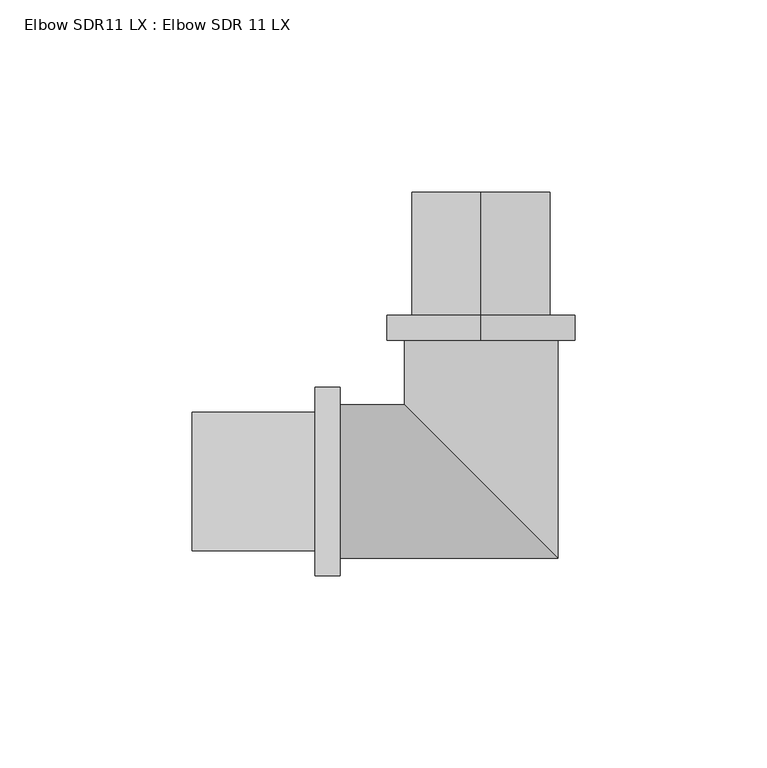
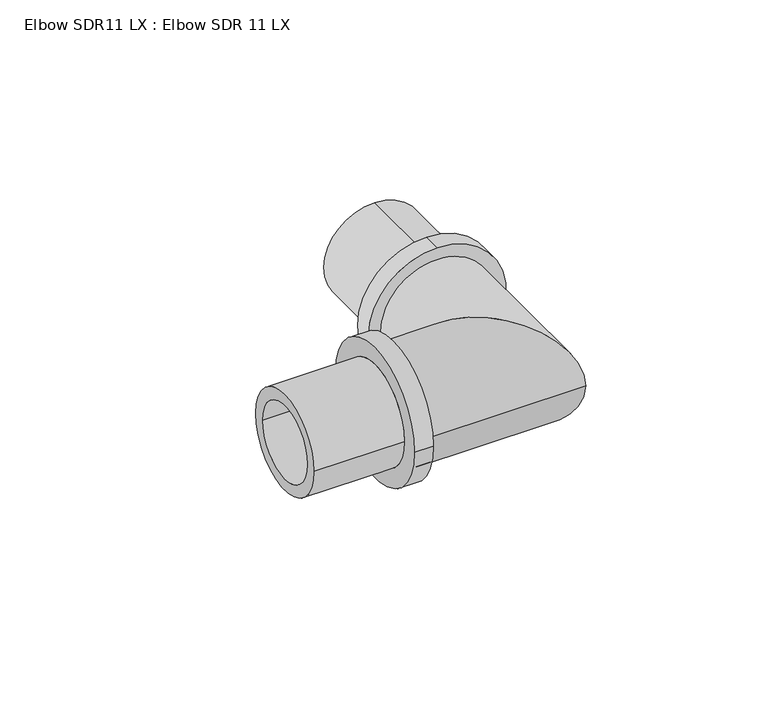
"""IFC4 building model written with IfcOpenShell, lengths in millimetres: pipe fitting geometry, Elbow SDR11 LX : Elbow SDR 11 LX."""

from ifc_helpers import new_model, si_unit, frame, origin, place, context, project, spatial, polyline, circle_curve, ellipse_curve, source, transform, mapped, element, save
from ifc_brep_helpers import plane_surface, cylinder_surface, revolved_surface, advanced_brep


def elbow_sdr11_lx_elbow_sdr_11_lx_b8bc8752(model_context):
    return source(origin(), model_context, "Body", "AdvancedBrep", [
        advanced_brep(
        [(-36.7, -20.0, 0.0), (-36.7, 20.0, 0.0), (-36.7, -13.75, 0.0), (-36.7, 13.75, 0.0), (20.0, -20.0, 0.0), (-20.0, 20.0, 0.0), (13.75, -13.75, 0.0), (-13.75, 13.75, 0.0), (20.0, 36.7, 0.0), (-20.0, 36.7, 0.0), (13.75, 36.7, 0.0), (-13.75, 36.7, 0.0)],
        [
            (0, 1, circle_curve(frame((-36.7, 0.0, 0.0), z_axis=(-1.0, 0.0, 0.0), x_axis=(0.0, 1.0, 0.0)), 20.0)),
            (1, 0, circle_curve(frame((-36.7, 0.0, 0.0), z_axis=(-1.0, 0.0, 0.0), x_axis=(0.0, 1.0, 0.0)), 20.0)),
            (2, 3, circle_curve(frame((-36.7, 0.0, 0.0), z_axis=(1.0, 0.0, 0.0), x_axis=(0.0, 1.0, 0.0)), 13.75)),
            (3, 2, circle_curve(frame((-36.7, 0.0, 0.0), z_axis=(1.0, 0.0, 0.0), x_axis=(0.0, 1.0, 0.0)), 13.75)),
            (0, 4),
            (4, 5, ellipse_curve(frame((0.0, 0.0, 0.0), z_axis=(-0.7071067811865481, -0.7071067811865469, 0.0), x_axis=(-0.7071067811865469, 0.7071067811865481, 0.0)), 28.2842712, 20.0)),
            (5, 1),
            (5, 4, ellipse_curve(frame((0.0, 0.0, 0.0), z_axis=(-0.7071067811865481, -0.7071067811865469, 0.0), x_axis=(-0.7071067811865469, 0.7071067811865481, 0.0)), 28.2842712, 20.0)),
            (2, 6),
            (6, 7, ellipse_curve(frame((0.0, 0.0, 0.0), z_axis=(0.7071067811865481, 0.7071067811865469, 0.0), x_axis=(0.7071067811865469, -0.7071067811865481, 0.0)), 19.4454365, 13.75)),
            (7, 3),
            (7, 6, ellipse_curve(frame((0.0, 0.0, 0.0), z_axis=(0.7071067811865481, 0.7071067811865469, 0.0), x_axis=(0.7071067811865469, -0.7071067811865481, 0.0)), 19.4454365, 13.75)),
            (8, 9, circle_curve(frame((0.0, 36.7, 0.0), z_axis=(0.0, 1.0, 0.0), x_axis=(-1.0, 0.0, 0.0)), 20.0)),
            (9, 8, circle_curve(frame((0.0, 36.7, 0.0), z_axis=(0.0, 1.0, 0.0), x_axis=(-1.0, 0.0, 0.0)), 20.0)),
            (10, 11, circle_curve(frame((0.0, 36.7, 0.0), z_axis=(0.0, -1.0, 0.0), x_axis=(-1.0, 0.0, 0.0)), 13.75)),
            (11, 10, circle_curve(frame((0.0, 36.7, 0.0), z_axis=(0.0, -1.0, 0.0), x_axis=(-1.0, 0.0, 0.0)), 13.75)),
            (4, 8),
            (9, 5),
            (6, 10),
            (11, 7),
        ],
        [
            plane_surface(frame((-36.7, 0.0, 0.0), z_axis=(-1.0, 0.0, 0.0), x_axis=(0.0, 0.0, 1.0))),
            cylinder_surface(frame((-36.7, 0.0, 0.0), z_axis=(-1.0, 0.0, 0.0), x_axis=(0.0, 1.0, 0.0)), 20.0),
            revolved_surface(polyline([(13.750000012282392, 13.75, 0.0), (-36.7, 13.75, 0.0)]), (-36.7, 0.0, 0.0), (1.0, 0.0, 0.0)),
            plane_surface(frame((0.0, 36.7, 0.0), z_axis=(0.0, 1.0, 0.0), x_axis=(0.0, 0.0, 1.0))),
            cylinder_surface(frame((0.0, 0.0, 0.0), z_axis=(0.0, -1.0, 0.0), x_axis=(-1.0, 0.0, 0.0)), 20.0),
            revolved_surface(polyline([(-13.75, 36.7, 0.0), (-13.75, -13.750000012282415, 0.0)]), (0.0, 0.0, 0.0), (0.0, 1.0, 0.0)),
        ],
        [
            (0, [[1, 2], [3, 4]]),
            (1, [[-1, 5, 6, 7]]),
            (1, [[-2, -7, 8, -5]]),
            (2, [[-3, 9, 10, 11]]),
            (2, [[-4, -11, 12, -9]]),
            (3, [[13, 14], [15, 16]]),
            (4, [[-6, 17, -14, 18]]),
            (4, [[-8, -18, -13, -17]]),
            (5, [[-10, 19, -16, 20]]),
            (5, [[-12, -20, -15, -19]]),
        ],
    ),
        advanced_brep(
        [(0.0, 75.2, 13.75), (0.0, 75.2, -13.75), (0.0, 36.7, -13.75), (0.0, 36.7, 13.75), (0.0, 43.2, 18.0), (0.0, 43.2, -18.0), (0.0, 75.2, -18.0), (0.0, 75.2, 18.0), (0.0, 36.7, 24.5), (0.0, 36.7, -24.5), (0.0, 43.2, -24.5), (0.0, 43.2, 24.5)],
        [
            (0, 1, circle_curve(frame((0.0, 75.2, 0.0), z_axis=(0.0, 1.0, 0.0), x_axis=(0.0, 0.0, -1.0)), 13.75)),
            (1, 2),
            (2, 3, circle_curve(frame((0.0, 36.7, 0.0), z_axis=(0.0, -1.0, 0.0), x_axis=(0.0, 0.0, -1.0)), 13.75)),
            (3, 0),
            (4, 5, circle_curve(frame((0.0, 43.2, 0.0), z_axis=(0.0, 1.0, 0.0), x_axis=(0.0, 0.0, -1.0)), 18.0)),
            (5, 6),
            (6, 7, circle_curve(frame((0.0, 75.2, 0.0), z_axis=(0.0, -1.0, 0.0), x_axis=(0.0, 0.0, -1.0)), 18.0)),
            (7, 4),
            (8, 9, circle_curve(frame((0.0, 36.7, 0.0), z_axis=(0.0, 1.0, 0.0), x_axis=(0.0, 0.0, -1.0)), 24.5)),
            (9, 10),
            (10, 11, circle_curve(frame((0.0, 43.2, 0.0), z_axis=(0.0, -1.0, 0.0), x_axis=(0.0, 0.0, -1.0)), 24.5)),
            (11, 8),
            (1, 0, circle_curve(frame((0.0, 75.2, 0.0), z_axis=(0.0, 1.0, 0.0), x_axis=(0.0, 0.0, 1.0)), 13.75)),
            (3, 2, circle_curve(frame((0.0, 36.7, 0.0), z_axis=(0.0, -1.0, 0.0), x_axis=(0.0, 0.0, 1.0)), 13.75)),
            (6, 7, circle_curve(frame((0.0, 75.2, 0.0), z_axis=(0.0, 1.0, 0.0), x_axis=(0.0, 0.0, 1.0)), 18.0)),
            (5, 4, circle_curve(frame((0.0, 43.2, 0.0), z_axis=(0.0, 1.0, 0.0), x_axis=(0.0, 0.0, 1.0)), 18.0)),
            (10, 11, circle_curve(frame((0.0, 43.2, 0.0), z_axis=(0.0, 1.0, 0.0), x_axis=(0.0, 0.0, 1.0)), 24.5)),
            (9, 8, circle_curve(frame((0.0, 36.7, 0.0), z_axis=(0.0, 1.0, 0.0), x_axis=(0.0, 0.0, 1.0)), 24.5)),
        ],
        [
            revolved_surface(polyline([(0.0, 36.7, -13.75), (0.0, 75.2, -13.75)]), (0.0, 0.0, 0.0), (0.0, -1.0, 0.0)),
            cylinder_surface(frame((0.0, 0.0, 0.0), z_axis=(0.0, -1.0, 0.0), x_axis=(0.0, 0.0, -1.0)), 18.0),
            cylinder_surface(frame((0.0, 0.0, 0.0), z_axis=(0.0, -1.0, 0.0), x_axis=(0.0, 0.0, -1.0)), 24.5),
            revolved_surface(polyline([(0.0, 36.7, 13.75), (0.0, 75.2, 13.75)]), (0.0, 0.0, 0.0), (0.0, -1.0, 0.0)),
            plane_surface(frame((0.0, 75.2, 0.0), z_axis=(0.0, 1.0, 0.0), x_axis=(0.0, 0.0, 1.0))),
            cylinder_surface(frame((0.0, 0.0, 0.0), z_axis=(0.0, -1.0, 0.0), x_axis=(0.0, 0.0, 1.0)), 18.0),
            plane_surface(frame((0.0, 43.2, 0.0), z_axis=(0.0, 1.0, 0.0), x_axis=(0.0, 0.0, 1.0))),
            cylinder_surface(frame((0.0, 0.0, 0.0), z_axis=(0.0, -1.0, 0.0), x_axis=(0.0, 0.0, 1.0)), 24.5),
            plane_surface(frame((0.0, 36.7, 0.0), z_axis=(0.0, -1.0, 0.0), x_axis=(0.0, 0.0, 1.0))),
        ],
        [
            (0, [[1, 2, 3, 4]]),
            (1, [[5, 6, 7, 8]]),
            (2, [[9, 10, 11, 12]]),
            (3, [[13, -4, 14, -2]]),
            (4, [[15, -7], [-13, -1]]),
            (5, [[16, -8, -15, -6]]),
            (6, [[17, -11], [-16, -5]]),
            (7, [[18, -12, -17, -10]]),
            (8, [[-18, -9], [-14, -3]]),
        ],
    ),
        advanced_brep(
        [(-36.7, 24.5, 0.0), (-36.7, -24.5, 0.0), (-43.2, -24.5, 0.0), (-43.2, 24.5, 0.0), (-43.2, 18.0, 0.0), (-43.2, -18.0, 0.0), (-75.2, -18.0, 0.0), (-75.2, 18.0, 0.0), (-75.2, 13.75, 0.0), (-75.2, -13.75, 0.0), (-36.7, -13.75, 0.0), (-36.7, 13.75, 0.0)],
        [
            (0, 1, circle_curve(frame((-36.7, 0.0, 0.0), z_axis=(-1.0, 0.0, 0.0), x_axis=(0.0, -1.0, 0.0)), 24.5)),
            (1, 2),
            (2, 3, circle_curve(frame((-43.2, 0.0, 0.0), z_axis=(1.0, 0.0, 0.0), x_axis=(0.0, -1.0, 0.0)), 24.5)),
            (3, 0),
            (4, 5, circle_curve(frame((-43.2, 0.0, 0.0), z_axis=(-1.0, 0.0, 0.0), x_axis=(0.0, -1.0, 0.0)), 18.0)),
            (5, 6),
            (6, 7, circle_curve(frame((-75.2, 0.0, 0.0), z_axis=(1.0, 0.0, 0.0), x_axis=(0.0, -1.0, 0.0)), 18.0)),
            (7, 4),
            (8, 9, circle_curve(frame((-75.2, 0.0, 0.0), z_axis=(-1.0, 0.0, 0.0), x_axis=(0.0, -1.0, 0.0)), 13.75)),
            (9, 10),
            (10, 11, circle_curve(frame((-36.7, 0.0, 0.0), z_axis=(1.0, 0.0, 0.0), x_axis=(0.0, -1.0, 0.0)), 13.75)),
            (11, 8),
            (0, 1, circle_curve(frame((-36.7, 0.0, 0.0), z_axis=(1.0, 0.0, 0.0), x_axis=(0.0, 1.0, 0.0)), 24.5)),
            (10, 11, circle_curve(frame((-36.7, 0.0, 0.0), z_axis=(-1.0, 0.0, 0.0), x_axis=(0.0, 1.0, 0.0)), 13.75)),
            (3, 2, circle_curve(frame((-43.2, 0.0, 0.0), z_axis=(1.0, 0.0, 0.0), x_axis=(0.0, 1.0, 0.0)), 24.5)),
            (4, 5, circle_curve(frame((-43.2, 0.0, 0.0), z_axis=(1.0, 0.0, 0.0), x_axis=(0.0, 1.0, 0.0)), 18.0)),
            (7, 6, circle_curve(frame((-75.2, 0.0, 0.0), z_axis=(1.0, 0.0, 0.0), x_axis=(0.0, 1.0, 0.0)), 18.0)),
            (8, 9, circle_curve(frame((-75.2, 0.0, 0.0), z_axis=(1.0, 0.0, 0.0), x_axis=(0.0, 1.0, 0.0)), 13.75)),
        ],
        [
            cylinder_surface(frame((0.0, 0.0, 0.0), z_axis=(1.0, 0.0, 0.0), x_axis=(0.0, -1.0, 0.0)), 24.5),
            cylinder_surface(frame((0.0, 0.0, 0.0), z_axis=(1.0, 0.0, 0.0), x_axis=(0.0, -1.0, 0.0)), 18.0),
            revolved_surface(polyline([(-36.7, -13.75, 0.0), (-75.2, -13.75, 0.0)]), (0.0, 0.0, 0.0), (1.0, 0.0, 0.0)),
            plane_surface(frame((-36.7, 0.0, 0.0), z_axis=(1.0, 0.0, 0.0), x_axis=(0.0, 1.0, 0.0))),
            cylinder_surface(frame((0.0, 0.0, 0.0), z_axis=(1.0, 0.0, 0.0), x_axis=(0.0, 1.0, 0.0)), 24.5),
            plane_surface(frame((-43.2, 0.0, 0.0), z_axis=(-1.0, 0.0, 0.0), x_axis=(0.0, 1.0, 0.0))),
            cylinder_surface(frame((0.0, 0.0, 0.0), z_axis=(1.0, 0.0, 0.0), x_axis=(0.0, 1.0, 0.0)), 18.0),
            plane_surface(frame((-75.2, 0.0, 0.0), z_axis=(-1.0, 0.0, 0.0), x_axis=(0.0, 1.0, 0.0))),
            revolved_surface(polyline([(-36.7, 13.75, 0.0), (-75.2, 13.75, 0.0)]), (0.0, 0.0, 0.0), (1.0, 0.0, 0.0)),
        ],
        [
            (0, [[1, 2, 3, 4]]),
            (1, [[5, 6, 7, 8]]),
            (2, [[9, 10, 11, 12]]),
            (3, [[13, -1], [14, -11]]),
            (4, [[-13, -4, 15, -2]]),
            (5, [[-15, -3], [16, -5]]),
            (6, [[-16, -8, 17, -6]]),
            (7, [[-17, -7], [18, -9]]),
            (8, [[-18, -12, -14, -10]]),
        ],
    ),
    ])


if __name__ == "__main__":
    model = new_model("IFC4")
    model_context = context("Model", 3, world=origin())
    ifc_project = project(units=[si_unit("LENGTHUNIT", "METRE", prefix="MILLI")], contexts=[model_context])
    site = spatial("IfcSite", under=ifc_project)
    building = spatial("IfcBuilding", under=site)
    placement = place(None, origin())
    elbow_sdr11_lx_elbow_sdr_11_lx_shape = elbow_sdr11_lx_elbow_sdr_11_lx_b8bc8752(model_context)
    element("IfcPipeFitting", 1, ObjectType="Elbow SDR11 LX : Elbow SDR 11 LX", at=placement, inside=building, context=model_context, shape_type="MappedRepresentation", body=[
        mapped(elbow_sdr11_lx_elbow_sdr_11_lx_shape, transform((0.0, 0.0, 0.0), x_axis=(1.0, 0.0, 0.0), y_axis=(0.0, 1.0, 0.0), z_axis=(0.0, 0.0, 1.0))),
    ])
    save(model, "model.ifc")
